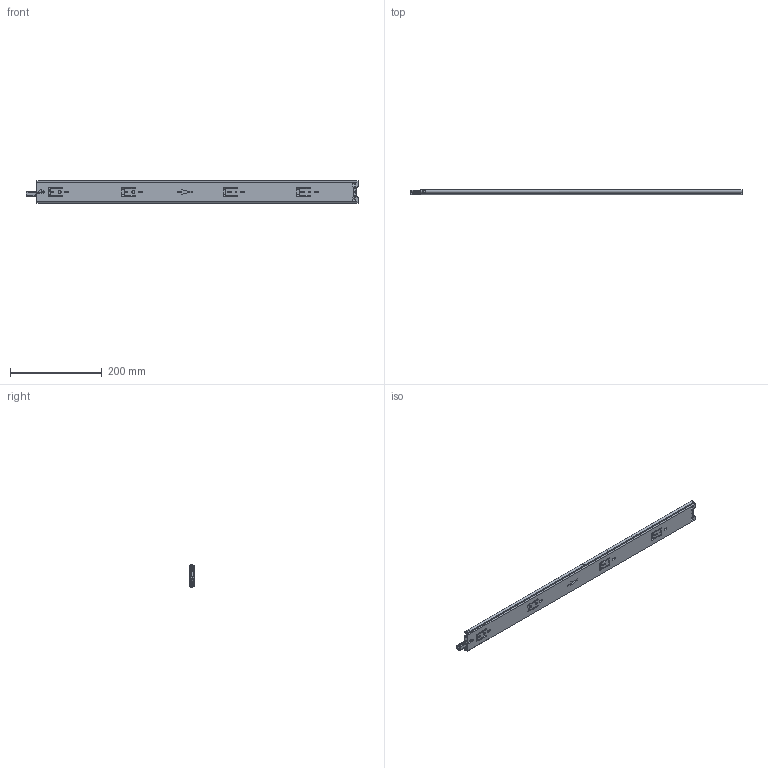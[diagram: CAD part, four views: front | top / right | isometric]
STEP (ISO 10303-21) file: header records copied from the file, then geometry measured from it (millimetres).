
FILE_DESCRIPTION((''),'2;1');
FILE_NAME('KP-50-3S-28ZUO_ASM','2023-05-06T',('jishu015'),(''),'PRO/ENGINEER BY PARAMETRIC TECHNOLOGY CORPORATION, 2010280','PRO/ENGINEER BY PARAMETRIC TECHNOLOGY CORPORATION, 2010280','');
FILE_SCHEMA(('CONFIG_CONTROL_DESIGN'));
Products named in the file (19): KP-50-01WAIKE18112__; KP-50-01ZHONGGIU20____; ZHONGGUIPEIJIAN21__; 50BAIKO12__; KP-53-01ZHONGGUI-1854______ASM; KP-50-01ZHUJIA-16GE43_____; 4-76GANZHU21__; KP-50-01ZHUJIA-16GE23______ASM; KP-50-01NEIGUI121__; YH1050BANJI12__; PIAN12__; JIAO12__; DAOPIAN21__; ZOU-121__; KP53-0NEIGUI21___ASM; 50ZHUTIAO21__; 50ZHUTIAO21___ASM; CHANGGUI1045WEIJIAO232___; KP-50-3S-28ZUO_ASM
Assembly tree (82 placements, depth 3):
  KP-50-3S-28ZUO_ASM
    KP-50-01WAIKE18112__
    KP-53-01ZHONGGUI-1854______ASM
      KP-50-01ZHONGGIU20____
      ZHONGGUIPEIJIAN21__
      50BAIKO12__
    KP-50-01ZHUJIA-16GE23______ASM
      KP-50-01ZHUJIA-16GE43_____
      4-76GANZHU21__  x52
    KP53-0NEIGUI21___ASM
      KP-50-01NEIGUI121__
      YH1050BANJI12__
      PIAN12__
      JIAO12__
      DAOPIAN21__
      ZOU-121__
    50ZHUTIAO21___ASM  x2
      50ZHUTIAO21__
      4-76GANZHU21__
    CHANGGUI1045WEIJIAO232___
Bounding box: 723.8 x 13 x 50 mm (x, y, z)
Volume: 210183.4 mm3; surface area: 277659.4 mm2
Topology: 90 solids, 91 shells, 2273 faces, 6648 edges, 4088 vertices
Faces by surface type: cylinder 1000, plane 896, bspline 161, sphere 154, torus 25, extrusion 23, cone 14
Entity records: 75574 total; most frequent: CARTESIAN_POINT 19916, ORIENTED_EDGE 11904, DIRECTION 11412, EDGE_CURVE 5954, AXIS2_PLACEMENT_3D 3884, VERTEX_POINT 3778, VECTOR 3644, LINE 3621
